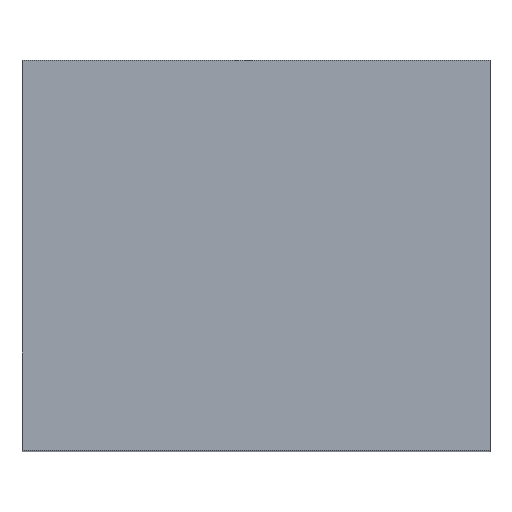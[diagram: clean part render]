
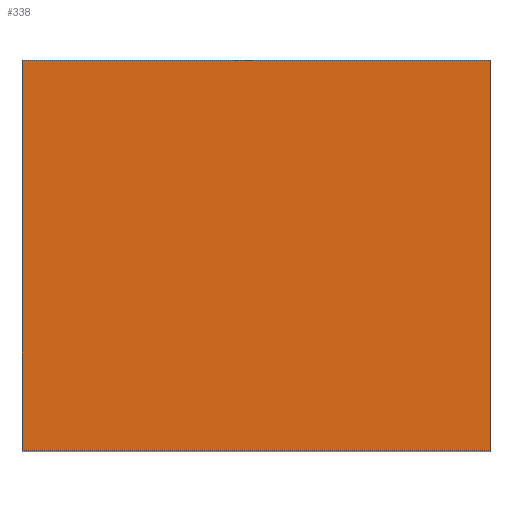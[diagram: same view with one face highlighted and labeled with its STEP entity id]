
A CAD part, top view. The second image highlights one B-rep face of the part: STEP entity #338.
In plain terms, the highlighted planar face has unit normal (0, 0, 1).
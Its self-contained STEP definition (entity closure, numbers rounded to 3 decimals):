
#24 = VERTEX_POINT('',#25);
#25 = CARTESIAN_POINT('',(81.,3.2,72.5));
#32 = PLANE('',#33);
#33 = AXIS2_PLACEMENT_3D('',#34,#35,#36);
#34 = CARTESIAN_POINT('',(81.,3.2,17.5));
#35 = DIRECTION('',(1.,0.,-0.));
#36 = DIRECTION('',(0.,0.,1.));
#44 = PLANE('',#45);
#45 = AXIS2_PLACEMENT_3D('',#46,#47,#48);
#46 = CARTESIAN_POINT('',(81.,3.2,17.5));
#47 = DIRECTION('',(-0.,1.,0.));
#48 = DIRECTION('',(0.,0.,1.));
#85 = VERTEX_POINT('',#86);
#86 = CARTESIAN_POINT('',(81.,28.2,72.5));
#100 = PLANE('',#101);
#101 = AXIS2_PLACEMENT_3D('',#102,#103,#104);
#102 = CARTESIAN_POINT('',(81.,28.2,17.5));
#103 = DIRECTION('',(-0.,1.,0.));
#104 = DIRECTION('',(0.,0.,1.));
#112 = EDGE_CURVE('',#24,#85,#113,.T.);
#113 = SURFACE_CURVE('',#114,(#118,#125),.PCURVE_S1.);
#114 = LINE('',#115,#116);
#115 = CARTESIAN_POINT('',(81.,3.2,72.5));
#116 = VECTOR('',#117,1.);
#117 = DIRECTION('',(-0.,1.,0.));
#118 = PCURVE('',#32,#119);
#119 = DEFINITIONAL_REPRESENTATION('',(#120),#124);
#120 = LINE('',#121,#122);
#121 = CARTESIAN_POINT('',(55.,0.));
#122 = VECTOR('',#123,1.);
#123 = DIRECTION('',(0.,-1.));
#124 = ( GEOMETRIC_REPRESENTATION_CONTEXT(2) 
PARAMETRIC_REPRESENTATION_CONTEXT() REPRESENTATION_CONTEXT('2D SPACE',''
  ) );
#125 = PCURVE('',#126,#131);
#126 = PLANE('',#127);
#127 = AXIS2_PLACEMENT_3D('',#128,#129,#130);
#128 = CARTESIAN_POINT('',(81.,3.2,72.5));
#129 = DIRECTION('',(0.,0.,1.));
#130 = DIRECTION('',(1.,0.,-0.));
#131 = DEFINITIONAL_REPRESENTATION('',(#132),#136);
#132 = LINE('',#133,#134);
#133 = CARTESIAN_POINT('',(0.,0.));
#134 = VECTOR('',#135,1.);
#135 = DIRECTION('',(0.,1.));
#136 = ( GEOMETRIC_REPRESENTATION_CONTEXT(2) 
PARAMETRIC_REPRESENTATION_CONTEXT() REPRESENTATION_CONTEXT('2D SPACE',''
  ) );
#144 = VERTEX_POINT('',#145);
#145 = CARTESIAN_POINT('',(111.,3.2,72.5));
#152 = PLANE('',#153);
#153 = AXIS2_PLACEMENT_3D('',#154,#155,#156);
#154 = CARTESIAN_POINT('',(111.,3.2,17.5));
#155 = DIRECTION('',(1.,0.,-0.));
#156 = DIRECTION('',(0.,0.,1.));
#195 = VERTEX_POINT('',#196);
#196 = CARTESIAN_POINT('',(111.,28.2,72.5));
#217 = EDGE_CURVE('',#144,#195,#218,.T.);
#218 = SURFACE_CURVE('',#219,(#223,#230),.PCURVE_S1.);
#219 = LINE('',#220,#221);
#220 = CARTESIAN_POINT('',(111.,3.2,72.5));
#221 = VECTOR('',#222,1.);
#222 = DIRECTION('',(-0.,1.,0.));
#223 = PCURVE('',#152,#224);
#224 = DEFINITIONAL_REPRESENTATION('',(#225),#229);
#225 = LINE('',#226,#227);
#226 = CARTESIAN_POINT('',(55.,0.));
#227 = VECTOR('',#228,1.);
#228 = DIRECTION('',(0.,-1.));
#229 = ( GEOMETRIC_REPRESENTATION_CONTEXT(2) 
PARAMETRIC_REPRESENTATION_CONTEXT() REPRESENTATION_CONTEXT('2D SPACE',''
  ) );
#230 = PCURVE('',#126,#231);
#231 = DEFINITIONAL_REPRESENTATION('',(#232),#236);
#232 = LINE('',#233,#234);
#233 = CARTESIAN_POINT('',(30.,0.));
#234 = VECTOR('',#235,1.);
#235 = DIRECTION('',(0.,1.));
#236 = ( GEOMETRIC_REPRESENTATION_CONTEXT(2) 
PARAMETRIC_REPRESENTATION_CONTEXT() REPRESENTATION_CONTEXT('2D SPACE',''
  ) );
#263 = EDGE_CURVE('',#24,#144,#264,.T.);
#264 = SURFACE_CURVE('',#265,(#269,#276),.PCURVE_S1.);
#265 = LINE('',#266,#267);
#266 = CARTESIAN_POINT('',(81.,3.2,72.5));
#267 = VECTOR('',#268,1.);
#268 = DIRECTION('',(1.,0.,-0.));
#269 = PCURVE('',#44,#270);
#270 = DEFINITIONAL_REPRESENTATION('',(#271),#275);
#271 = LINE('',#272,#273);
#272 = CARTESIAN_POINT('',(55.,0.));
#273 = VECTOR('',#274,1.);
#274 = DIRECTION('',(0.,1.));
#275 = ( GEOMETRIC_REPRESENTATION_CONTEXT(2) 
PARAMETRIC_REPRESENTATION_CONTEXT() REPRESENTATION_CONTEXT('2D SPACE',''
  ) );
#276 = PCURVE('',#126,#277);
#277 = DEFINITIONAL_REPRESENTATION('',(#278),#282);
#278 = LINE('',#279,#280);
#279 = CARTESIAN_POINT('',(0.,0.));
#280 = VECTOR('',#281,1.);
#281 = DIRECTION('',(1.,0.));
#282 = ( GEOMETRIC_REPRESENTATION_CONTEXT(2) 
PARAMETRIC_REPRESENTATION_CONTEXT() REPRESENTATION_CONTEXT('2D SPACE',''
  ) );
#310 = EDGE_CURVE('',#85,#195,#311,.T.);
#311 = SURFACE_CURVE('',#312,(#316,#323),.PCURVE_S1.);
#312 = LINE('',#313,#314);
#313 = CARTESIAN_POINT('',(81.,28.2,72.5));
#314 = VECTOR('',#315,1.);
#315 = DIRECTION('',(1.,0.,-0.));
#316 = PCURVE('',#100,#317);
#317 = DEFINITIONAL_REPRESENTATION('',(#318),#322);
#318 = LINE('',#319,#320);
#319 = CARTESIAN_POINT('',(55.,0.));
#320 = VECTOR('',#321,1.);
#321 = DIRECTION('',(0.,1.));
#322 = ( GEOMETRIC_REPRESENTATION_CONTEXT(2) 
PARAMETRIC_REPRESENTATION_CONTEXT() REPRESENTATION_CONTEXT('2D SPACE',''
  ) );
#323 = PCURVE('',#126,#324);
#324 = DEFINITIONAL_REPRESENTATION('',(#325),#329);
#325 = LINE('',#326,#327);
#326 = CARTESIAN_POINT('',(0.,25.));
#327 = VECTOR('',#328,1.);
#328 = DIRECTION('',(1.,0.));
#329 = ( GEOMETRIC_REPRESENTATION_CONTEXT(2) 
PARAMETRIC_REPRESENTATION_CONTEXT() REPRESENTATION_CONTEXT('2D SPACE',''
  ) );
#338 = ADVANCED_FACE('',(#339),#126,.T.);
#339 = FACE_BOUND('',#340,.T.);
#340 = EDGE_LOOP('',(#341,#342,#343,#344));
#341 = ORIENTED_EDGE('',*,*,#112,.F.);
#342 = ORIENTED_EDGE('',*,*,#263,.T.);
#343 = ORIENTED_EDGE('',*,*,#217,.T.);
#344 = ORIENTED_EDGE('',*,*,#310,.F.);
